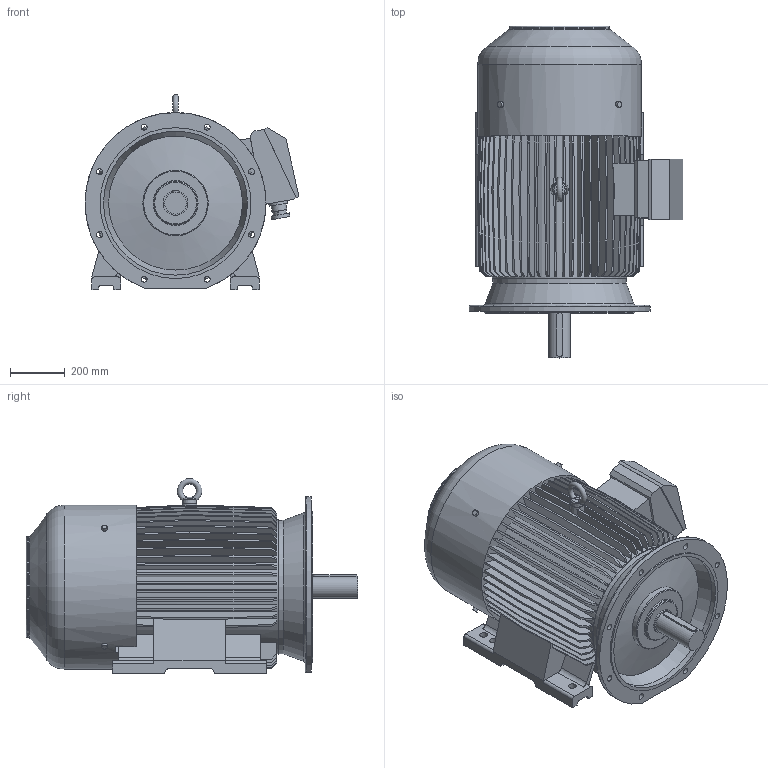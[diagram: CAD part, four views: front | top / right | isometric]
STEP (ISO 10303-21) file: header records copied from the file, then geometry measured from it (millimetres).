
FILE_DESCRIPTION(/* description */ ('Unknown'),/* implementation_level */ '2;1');
FILE_NAME(/* name */ '2SLg 315 S_M4-12',/* time_stamp */ '2016-09-28T12:41:53+02:00',/* author */ ('Unknown'),/* organization */ ('Unknown'),/* preprocessor_version */ 'ST-DEVELOPER v16',/* originating_system */ 'DEX',/* authorisation */ $);
FILE_SCHEMA (('AUTOMOTIVE_DESIGN {1 0 10303 214 3 1 1}'));
Length unit declared in the file: millimetre
Products named in the file (1): 2SLg 315 S_M4-12
Bounding box: 780 x 1210 x 711 mm (x, y, z)
Volume: 249981556.9 mm3; surface area: 5804697.9 mm2
Topology: 3 solids, 3 shells, 523 faces, 1480 edges, 983 vertices
Faces by surface type: plane 423, cylinder 82, torus 11, cone 7
Full cylindrical faces by diameter (mm): 20 x4, 22 x8, 28 x6, 38.722 x2, 48.628 x2, 55.029 x2, 67.566 x2, 68.767 x2, 80 x1, 90 x1, 157.917 x1, 238.53 x1, 367.437 x1, 486 x1, 490 x1, 525 x1, 550 x1, 598 x1
Entity records: 19936 total; most frequent: CARTESIAN_POINT 6361, ORIENTED_EDGE 2824, DIRECTION 2707, EDGE_CURVE 1412, LINE 1089, VECTOR 1089, VERTEX_POINT 968, AXIS2_PLACEMENT_3D 809
